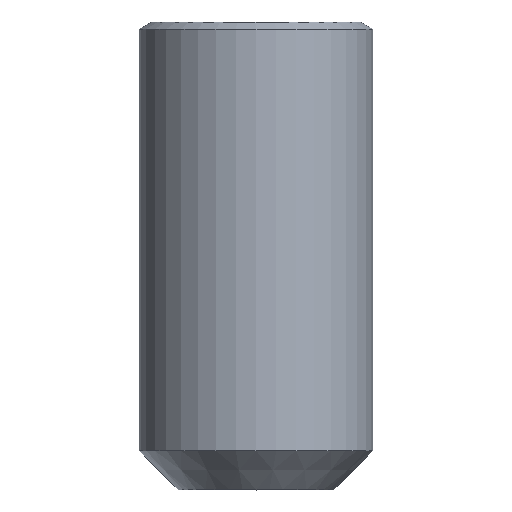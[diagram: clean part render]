
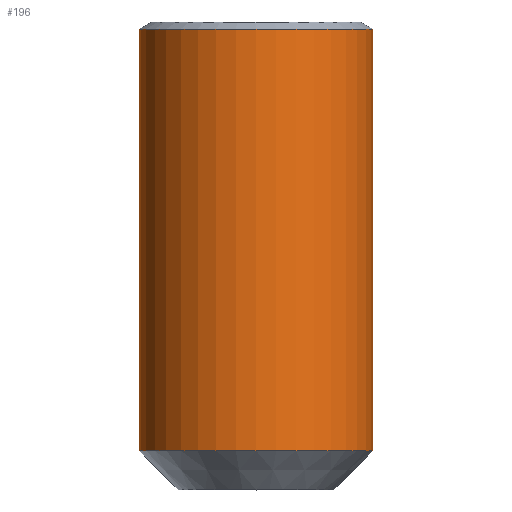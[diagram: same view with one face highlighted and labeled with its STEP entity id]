
A CAD part, top view. The second image highlights one B-rep face of the part: STEP entity #196.
In plain terms, the highlighted cylindrical face has radius 3 mm (diameter 6 mm), a full revolution.
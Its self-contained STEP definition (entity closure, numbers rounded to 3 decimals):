
#31=CYLINDRICAL_SURFACE('',#230,3.);
#33=FACE_OUTER_BOUND('',#45,.T.);
#45=EDGE_LOOP('',(#142,#143,#144,#145));
#58=LINE('',#303,#74);
#74=VECTOR('',#256,3.);
#90=CIRCLE('',#229,3.);
#91=CIRCLE('',#231,3.);
#94=VERTEX_POINT('',#297);
#95=VERTEX_POINT('',#301);
#113=EDGE_CURVE('',#94,#94,#90,.T.);
#114=EDGE_CURVE('',#95,#95,#91,.T.);
#115=EDGE_CURVE('',#95,#94,#58,.T.);
#142=ORIENTED_EDGE('',*,*,#114,.F.);
#143=ORIENTED_EDGE('',*,*,#115,.T.);
#144=ORIENTED_EDGE('',*,*,#113,.F.);
#145=ORIENTED_EDGE('',*,*,#115,.F.);
#196=ADVANCED_FACE('',(#33),#31,.T.);
#229=AXIS2_PLACEMENT_3D('',#299,#250,#251);
#230=AXIS2_PLACEMENT_3D('',#300,#252,#253);
#231=AXIS2_PLACEMENT_3D('',#302,#254,#255);
#250=DIRECTION('center_axis',(0.,-1.,0.));
#251=DIRECTION('ref_axis',(1.,0.,0.));
#252=DIRECTION('center_axis',(0.,1.,0.));
#253=DIRECTION('ref_axis',(1.,0.,0.));
#254=DIRECTION('center_axis',(0.,1.,0.));
#255=DIRECTION('ref_axis',(1.,0.,0.));
#256=DIRECTION('',(0.,-1.,0.));
#297=CARTESIAN_POINT('',(-3.,1.,0.));
#299=CARTESIAN_POINT('Origin',(0.,1.,0.));
#300=CARTESIAN_POINT('Origin',(0.,0.,0.));
#301=CARTESIAN_POINT('',(-3.,11.82,0.));
#302=CARTESIAN_POINT('Origin',(0.,11.82,0.));
#303=CARTESIAN_POINT('',(-3.,0.,0.));
